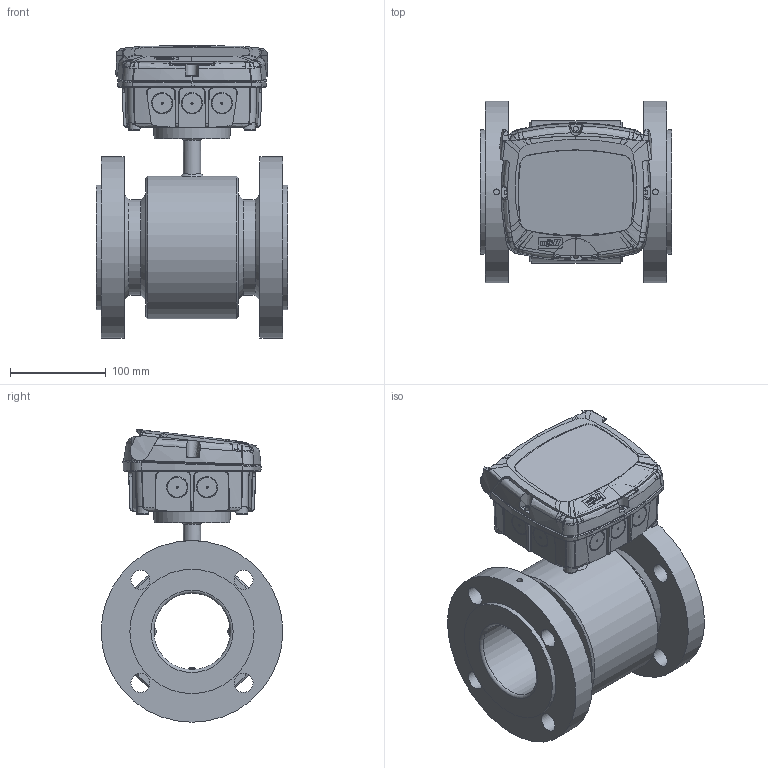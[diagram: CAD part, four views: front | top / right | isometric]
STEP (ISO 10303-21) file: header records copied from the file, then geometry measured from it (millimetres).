
FILE_DESCRIPTION((''),'2;1');
FILE_NAME('C:\Users\Claus\Dropbox\Projects 2011 - 2012\MJK Automation AS\DN 80 - ANSI B16,5.stp','2014-10-24T15:18:38',('Claus'),(''),'Autodesk Inventor 2013','Autodesk Inventor 2013','');
FILE_SCHEMA(('AUTOMOTIVE_DESIGN { 1 0 10303 214 1 1 1 1 }'));
Length unit declared in the file: millimetre
Products named in the file (7): DN 80 - ANSI B16,5; FC_MagFlux_assembly_r1; CH Bund ml; FC Top rev 06.04; CH 03.02; Electrode group DN15 - DN32
Assembly tree (8 placements, depth 3):
  DN 80 - ANSI B16,5
    DN 80 - ANSI B16,5
    FC_MagFlux_assembly_r1
      CH Bund ml
      FC Top rev 06.04
      CH 03.02
    Electrode group DN15 - DN32  x3
Bounding box: 200 x 190 x 305.84 mm (x, y, z)
Volume: 2860784.2 mm3; surface area: 504436.6 mm2
Topology: 10 solids, 10 shells, 2927 faces, 7970 edges, 5187 vertices
Faces by surface type: bspline 1752, plane 810, cylinder 202, cone 123, torus 25, revolution 9, sphere 6
Full cylindrical faces by diameter (mm): 2.5 x3, 3 x6, 4 x1, 6 x2, 6.5 x4, 7.042 x4, 8 x3, 8.048 x4, 12.072 x4, 15 x1, 18 x1, 18.108 x1, 20 x8, 64 x1, 80 x1, 100 x2, 130 x2, 149 x1, 190 x2
Entity records: 233788 total; most frequent: CARTESIAN_POINT 171524, ORIENTED_EDGE 15464, EDGE_CURVE 7732, DIRECTION 7709, VERTEX_POINT 5125, EDGE_LOOP 3241, VECTOR 3112, LINE 3112
